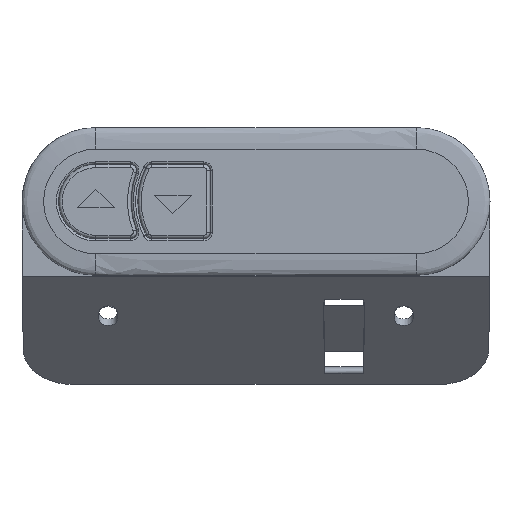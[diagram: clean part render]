
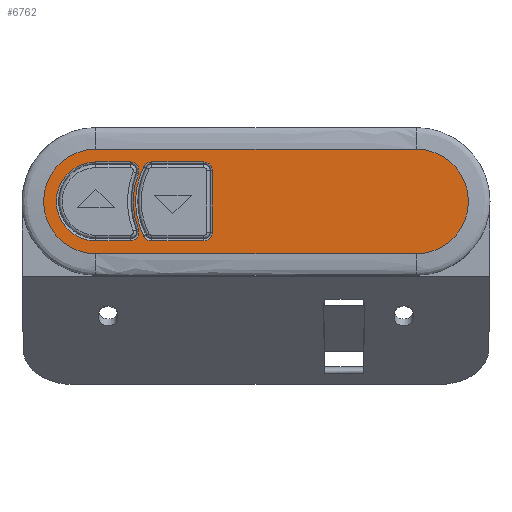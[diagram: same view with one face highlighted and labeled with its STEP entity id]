
A CAD part, top view. The second image highlights one B-rep face of the part: STEP entity #6762.
In plain terms, the highlighted planar face has unit normal (0, 0, 1).
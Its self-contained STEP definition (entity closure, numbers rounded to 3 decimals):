
#1210=CARTESIAN_POINT('',(26.,0.,1.5));
#1211=DIRECTION('',(0.,0.,1.));
#1212=DIRECTION('',(0.,-1.,0.));
#1213=AXIS2_PLACEMENT_3D('',#1210,#1211,#1212);
#1215=DIRECTION('',(1.,0.,0.));
#1216=VECTOR('',#1215,52.);
#1217=CARTESIAN_POINT('',(-26.,-8.491,1.5));
#1218=LINE('',#1217,#1216);
#1219=CARTESIAN_POINT('',(-26.,0.,1.5));
#1220=DIRECTION('',(0.,0.,1.));
#1221=DIRECTION('',(0.,1.,0.));
#1222=AXIS2_PLACEMENT_3D('',#1219,#1220,#1221);
#1224=DIRECTION('',(-1.,0.,0.));
#1225=VECTOR('',#1224,52.);
#1226=CARTESIAN_POINT('',(26.,8.491,1.5));
#1227=LINE('',#1226,#1225);
#1228=CARTESIAN_POINT('',(-16.936,5.,1.5));
#1229=DIRECTION('',(0.,0.,-1.));
#1230=DIRECTION('',(-0.889,0.459,0.));
#1231=AXIS2_PLACEMENT_3D('',#1228,#1229,#1230);
#1233=CARTESIAN_POINT('',(-7.25,0.,1.5));
#1234=DIRECTION('',(0.,0.,-1.));
#1235=DIRECTION('',(-0.889,-0.459,0.));
#1236=AXIS2_PLACEMENT_3D('',#1233,#1234,#1235);
#1238=CARTESIAN_POINT('',(-16.936,-5.,1.5));
#1239=DIRECTION('',(0.,0.,-1.));
#1240=DIRECTION('',(0.,-1.,0.));
#1241=AXIS2_PLACEMENT_3D('',#1238,#1239,#1240);
#1243=DIRECTION('',(-1.,0.,0.));
#1244=VECTOR('',#1243,8.436);
#1245=CARTESIAN_POINT('',(-8.5,-6.417,1.5));
#1246=LINE('',#1245,#1244);
#1247=CARTESIAN_POINT('',(-8.5,-5.,1.5));
#1248=DIRECTION('',(0.,0.,-1.));
#1249=DIRECTION('',(1.,0.,0.));
#1250=AXIS2_PLACEMENT_3D('',#1247,#1248,#1249);
#1252=DIRECTION('',(0.,-1.,0.));
#1253=VECTOR('',#1252,10.);
#1254=CARTESIAN_POINT('',(-7.083,5.,1.5));
#1255=LINE('',#1254,#1253);
#1256=CARTESIAN_POINT('',(-8.5,5.,1.5));
#1257=DIRECTION('',(0.,0.,-1.));
#1258=DIRECTION('',(0.,1.,0.));
#1259=AXIS2_PLACEMENT_3D('',#1256,#1257,#1258);
#1261=DIRECTION('',(1.,0.,0.));
#1262=VECTOR('',#1261,8.436);
#1263=CARTESIAN_POINT('',(-16.936,6.417,1.5));
#1264=LINE('',#1263,#1262);
#1265=CARTESIAN_POINT('',(-20.434,-5.,1.5));
#1266=DIRECTION('',(0.,0.,-1.));
#1267=DIRECTION('',(0.935,0.355,0.));
#1268=AXIS2_PLACEMENT_3D('',#1265,#1266,#1267);
#1270=CARTESIAN_POINT('',(-7.25,0.,1.5));
#1271=DIRECTION('',(0.,0.,1.));
#1272=DIRECTION('',(-0.935,0.355,0.));
#1273=AXIS2_PLACEMENT_3D('',#1270,#1271,#1272);
#1275=CARTESIAN_POINT('',(-20.434,5.,1.5));
#1276=DIRECTION('',(0.,0.,-1.));
#1277=DIRECTION('',(0.,1.,0.));
#1278=AXIS2_PLACEMENT_3D('',#1275,#1276,#1277);
#1280=DIRECTION('',(1.,0.,0.));
#1281=VECTOR('',#1280,5.566);
#1282=CARTESIAN_POINT('',(-26.,6.417,1.5));
#1283=LINE('',#1282,#1281);
#1284=CARTESIAN_POINT('',(-26.,0.,1.5));
#1285=DIRECTION('',(0.,0.,-1.));
#1286=DIRECTION('',(0.,-1.,0.));
#1287=AXIS2_PLACEMENT_3D('',#1284,#1285,#1286);
#1289=DIRECTION('',(-1.,0.,0.));
#1290=VECTOR('',#1289,5.566);
#1291=CARTESIAN_POINT('',(-20.434,-6.417,1.5));
#1292=LINE('',#1291,#1290);
#4861=CARTESIAN_POINT('',(26.,-8.491,1.5));
#4862=CARTESIAN_POINT('',(26.,8.491,1.5));
#4863=VERTEX_POINT('',#4861);
#4864=VERTEX_POINT('',#4862);
#4869=CARTESIAN_POINT('',(-26.,8.491,1.5));
#4870=VERTEX_POINT('',#4869);
#4873=CARTESIAN_POINT('',(-26.,-8.491,1.5));
#4874=VERTEX_POINT('',#4873);
#4925=CARTESIAN_POINT('',(-18.195,5.65,1.5));
#4926=CARTESIAN_POINT('',(-16.936,6.417,1.5));
#4927=VERTEX_POINT('',#4925);
#4928=VERTEX_POINT('',#4926);
#4933=CARTESIAN_POINT('',(-8.5,6.417,1.5));
#4934=VERTEX_POINT('',#4933);
#4937=CARTESIAN_POINT('',(-7.083,5.,1.5));
#4938=VERTEX_POINT('',#4937);
#4941=CARTESIAN_POINT('',(-7.083,-5.,1.5));
#4942=VERTEX_POINT('',#4941);
#4945=CARTESIAN_POINT('',(-8.5,-6.417,1.5));
#4946=VERTEX_POINT('',#4945);
#4949=CARTESIAN_POINT('',(-16.936,-6.417,1.5));
#4950=VERTEX_POINT('',#4949);
#4953=CARTESIAN_POINT('',(-18.195,-5.65,1.5));
#4954=VERTEX_POINT('',#4953);
#4957=CARTESIAN_POINT('',(-19.108,-4.497,1.5));
#4958=CARTESIAN_POINT('',(-20.434,-6.417,1.5));
#4959=VERTEX_POINT('',#4957);
#4960=VERTEX_POINT('',#4958);
#4965=CARTESIAN_POINT('',(-26.,-6.417,1.5));
#4966=VERTEX_POINT('',#4965);
#4969=CARTESIAN_POINT('',(-26.,6.417,1.5));
#4970=VERTEX_POINT('',#4969);
#4973=CARTESIAN_POINT('',(-20.434,6.417,1.5));
#4974=VERTEX_POINT('',#4973);
#4977=CARTESIAN_POINT('',(-19.108,4.497,1.5));
#4978=VERTEX_POINT('',#4977);
#6716=CARTESIAN_POINT('',(0.,0.,1.5));
#6717=DIRECTION('',(0.,0.,1.));
#6718=DIRECTION('',(1.,0.,0.));
#6719=AXIS2_PLACEMENT_3D('',#6716,#6717,#6718);
#6720=PLANE('',#6719);
#6722=ORIENTED_EDGE('',*,*,#6721,.F.);
#6724=ORIENTED_EDGE('',*,*,#6723,.F.);
#6725=ORIENTED_EDGE('',*,*,#6706,.F.);
#6727=ORIENTED_EDGE('',*,*,#6726,.F.);
#6728=EDGE_LOOP('',(#6722,#6724,#6725,#6727));
#6729=FACE_OUTER_BOUND('',#6728,.F.);
#6731=ORIENTED_EDGE('',*,*,#6730,.F.);
#6733=ORIENTED_EDGE('',*,*,#6732,.F.);
#6735=ORIENTED_EDGE('',*,*,#6734,.F.);
#6737=ORIENTED_EDGE('',*,*,#6736,.F.);
#6739=ORIENTED_EDGE('',*,*,#6738,.F.);
#6741=ORIENTED_EDGE('',*,*,#6740,.F.);
#6743=ORIENTED_EDGE('',*,*,#6742,.F.);
#6745=ORIENTED_EDGE('',*,*,#6744,.F.);
#6746=EDGE_LOOP('',(#6731,#6733,#6735,#6737,#6739,#6741,#6743,#6745));
#6747=FACE_BOUND('',#6746,.F.);
#6749=ORIENTED_EDGE('',*,*,#6748,.F.);
#6751=ORIENTED_EDGE('',*,*,#6750,.F.);
#6753=ORIENTED_EDGE('',*,*,#6752,.F.);
#6755=ORIENTED_EDGE('',*,*,#6754,.F.);
#6757=ORIENTED_EDGE('',*,*,#6756,.F.);
#6759=ORIENTED_EDGE('',*,*,#6758,.F.);
#6760=EDGE_LOOP('',(#6749,#6751,#6753,#6755,#6757,#6759));
#6761=FACE_BOUND('',#6760,.F.);
#6762=ADVANCED_FACE('',(#6729,#6747,#6761),#6720,.T.);
#1214=CIRCLE('',#1213,8.491);
#1223=CIRCLE('',#1222,8.491);
#1232=CIRCLE('',#1231,1.417);
#1237=CIRCLE('',#1236,12.317);
#1242=CIRCLE('',#1241,1.417);
#1251=CIRCLE('',#1250,1.417);
#1260=CIRCLE('',#1259,1.417);
#1269=CIRCLE('',#1268,1.417);
#1274=CIRCLE('',#1273,12.683);
#1279=CIRCLE('',#1278,1.417);
#1288=CIRCLE('',#1287,6.417);
#6706=EDGE_CURVE('',#4870,#4874,#1223,.T.);
#6721=EDGE_CURVE('',#4863,#4864,#1214,.T.);
#6723=EDGE_CURVE('',#4874,#4863,#1218,.T.);
#6726=EDGE_CURVE('',#4864,#4870,#1227,.T.);
#6730=EDGE_CURVE('',#4927,#4928,#1232,.T.);
#6732=EDGE_CURVE('',#4954,#4927,#1237,.T.);
#6734=EDGE_CURVE('',#4950,#4954,#1242,.T.);
#6736=EDGE_CURVE('',#4946,#4950,#1246,.T.);
#6738=EDGE_CURVE('',#4942,#4946,#1251,.T.);
#6740=EDGE_CURVE('',#4938,#4942,#1255,.T.);
#6742=EDGE_CURVE('',#4934,#4938,#1260,.T.);
#6744=EDGE_CURVE('',#4928,#4934,#1264,.T.);
#6748=EDGE_CURVE('',#4959,#4960,#1269,.T.);
#6750=EDGE_CURVE('',#4978,#4959,#1274,.T.);
#6752=EDGE_CURVE('',#4974,#4978,#1279,.T.);
#6754=EDGE_CURVE('',#4970,#4974,#1283,.T.);
#6756=EDGE_CURVE('',#4966,#4970,#1288,.T.);
#6758=EDGE_CURVE('',#4960,#4966,#1292,.T.);
